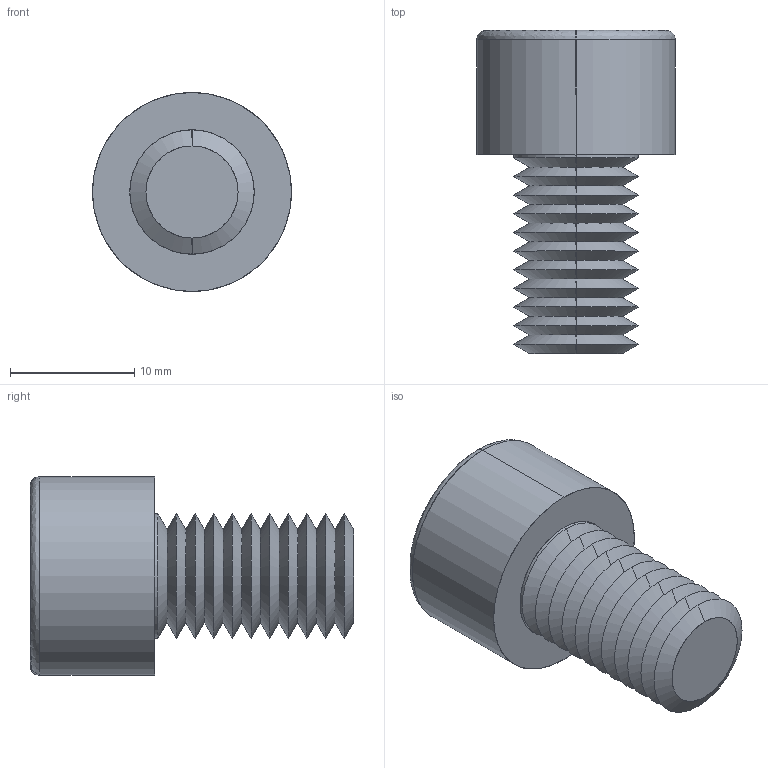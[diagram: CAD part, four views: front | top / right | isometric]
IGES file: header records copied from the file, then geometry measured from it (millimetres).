
Start section: SolidWorks IGES file using analytic representation for surfaces
Global section: file name: C:\Users\ianosborn\Desktop\N0007.91N_v2\N0007.91N_v2_20250519_IGES\91N.100.0160.igs; native system: SolidWorks 2019; preprocessor: SolidWorks 2019; author: IanOsborn; date: 250520.095451; units: millimetre
Bounding box: 16 x 26 x 16 mm (x, y, z)
Surface area: 1948.6 mm2 (no closed solid volume)
Topology: 0 solids, 0 shells, 72 faces, 509 edges, 507 vertices
Faces by surface type: revolution 55, bspline 17
